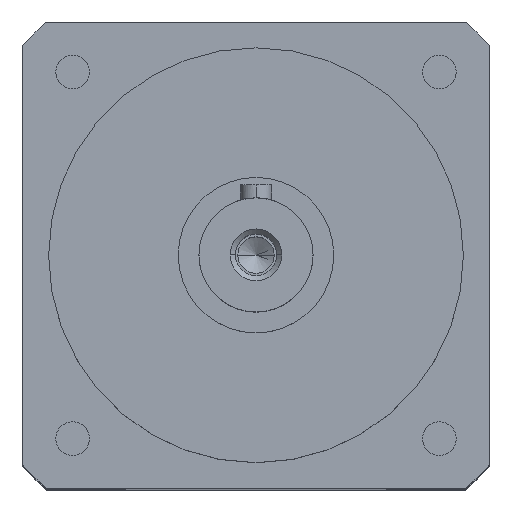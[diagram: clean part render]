
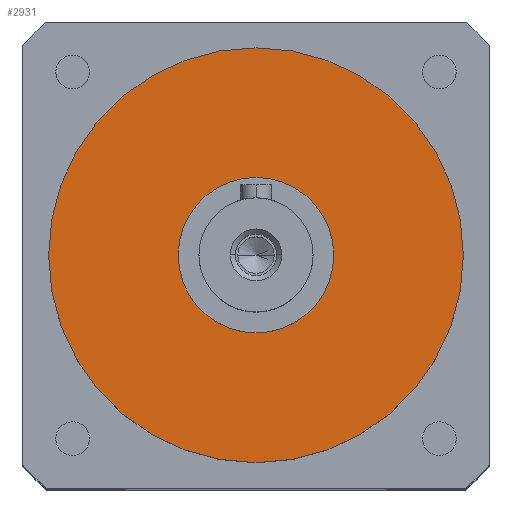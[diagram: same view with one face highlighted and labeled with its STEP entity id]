
A CAD part, top view. The second image highlights one B-rep face of the part: STEP entity #2931.
In plain terms, the highlighted planar face has unit normal (0, 0, 1).
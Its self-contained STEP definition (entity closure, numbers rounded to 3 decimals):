
#199 = VERTEX_POINT ( 'NONE', #589 ) ;
#276 = DIRECTION ( 'NONE',  ( 0., 0., -1. ) ) ;
#376 = EDGE_CURVE ( 'NONE', #3003, #2609, #2291, .T. ) ;
#390 = CARTESIAN_POINT ( 'NONE',  ( 0., 0., 10. ) ) ;
#453 = CIRCLE ( 'NONE', #3720, 40. ) ;
#460 = PLANE ( 'NONE',  #2821 ) ;
#526 = ORIENTED_EDGE ( 'NONE', *, *, #376, .T. ) ;
#528 = CARTESIAN_POINT ( 'NONE',  ( 15., 0., 10. ) ) ;
#589 = CARTESIAN_POINT ( 'NONE',  ( 40., 0., 10. ) ) ;
#834 = DIRECTION ( 'NONE',  ( 0., 0., -1. ) ) ;
#1008 = EDGE_LOOP ( 'NONE', ( #2602, #1479 ) ) ;
#1022 = DIRECTION ( 'NONE',  ( -1., 0., 0. ) ) ;
#1334 = CARTESIAN_POINT ( 'NONE',  ( 0., 0., 10. ) ) ;
#1337 = DIRECTION ( 'NONE',  ( 0., 0., -1. ) ) ;
#1479 = ORIENTED_EDGE ( 'NONE', *, *, #3492, .F. ) ;
#1642 = DIRECTION ( 'NONE',  ( -1., 0., 0. ) ) ;
#1876 = AXIS2_PLACEMENT_3D ( 'NONE', #2679, #834, #2995 ) ;
#1929 = FACE_BOUND ( 'NONE', #2952, .T. ) ;
#1963 = ORIENTED_EDGE ( 'NONE', *, *, #2796, .T. ) ;
#2002 = DIRECTION ( 'NONE',  ( -1., 0., 0. ) ) ;
#2101 = CARTESIAN_POINT ( 'NONE',  ( 0., 0., 10. ) ) ;
#2271 = CIRCLE ( 'NONE', #1876, 40. ) ;
#2291 = CIRCLE ( 'NONE', #2978, 15. ) ;
#2414 = DIRECTION ( 'NONE',  ( -1., 0., 0. ) ) ;
#2602 = ORIENTED_EDGE ( 'NONE', *, *, #3879, .F. ) ;
#2609 = VERTEX_POINT ( 'NONE', #2826 ) ;
#2679 = CARTESIAN_POINT ( 'NONE',  ( 0., 0., 10. ) ) ;
#2736 = VERTEX_POINT ( 'NONE', #3783 ) ;
#2796 = EDGE_CURVE ( 'NONE', #2609, #3003, #3256, .T. ) ;
#2821 = AXIS2_PLACEMENT_3D ( 'NONE', #3252, #3893, #2002 ) ;
#2826 = CARTESIAN_POINT ( 'NONE',  ( -15., 0., 10. ) ) ;
#2931 = ADVANCED_FACE ( 'NONE', ( #1929, #3705 ), #460, .F. ) ;
#2952 = EDGE_LOOP ( 'NONE', ( #1963, #526 ) ) ;
#2978 = AXIS2_PLACEMENT_3D ( 'NONE', #390, #1337, #1022 ) ;
#2995 = DIRECTION ( 'NONE',  ( -1., 0., 0. ) ) ;
#3003 = VERTEX_POINT ( 'NONE', #528 ) ;
#3252 = CARTESIAN_POINT ( 'NONE',  ( 0., 0., 10. ) ) ;
#3256 = CIRCLE ( 'NONE', #3782, 15. ) ;
#3492 = EDGE_CURVE ( 'NONE', #199, #2736, #453, .T. ) ;
#3523 = DIRECTION ( 'NONE',  ( 0., 0., -1. ) ) ;
#3705 = FACE_OUTER_BOUND ( 'NONE', #1008, .T. ) ;
#3720 = AXIS2_PLACEMENT_3D ( 'NONE', #2101, #276, #2414 ) ;
#3782 = AXIS2_PLACEMENT_3D ( 'NONE', #1334, #3523, #1642 ) ;
#3783 = CARTESIAN_POINT ( 'NONE',  ( -40., 0., 10. ) ) ;
#3879 = EDGE_CURVE ( 'NONE', #2736, #199, #2271, .T. ) ;
#3893 = DIRECTION ( 'NONE',  ( 0., 0., -1. ) ) ;
